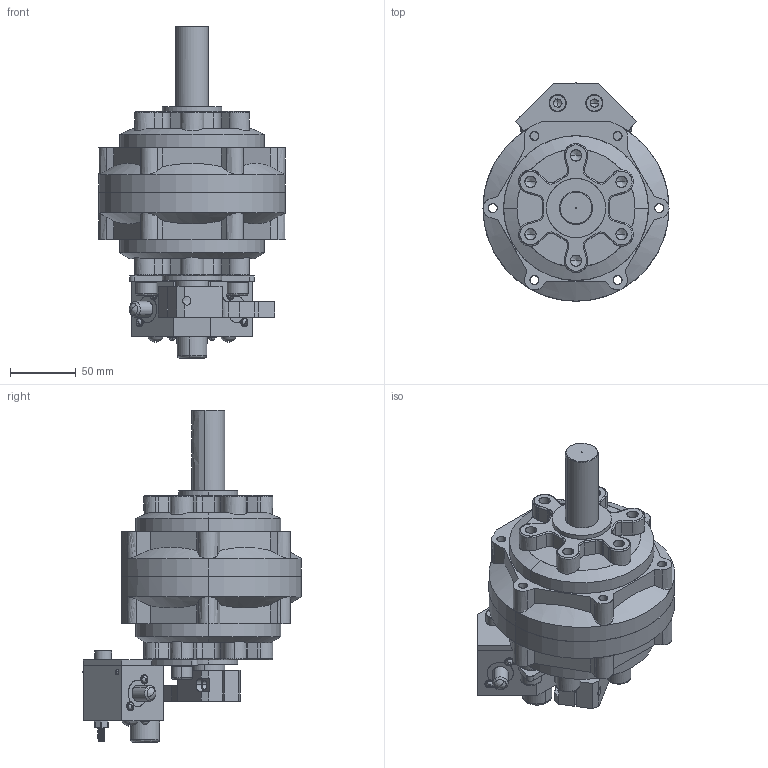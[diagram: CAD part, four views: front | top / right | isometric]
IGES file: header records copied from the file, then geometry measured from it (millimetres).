
Start section: SolidWorks IGES file using analytic representation for surfaces
Global section: file name: C:\Users\Chieh_Lu\Dropbox\¤u§@«Ç\PRN50-150-300-800\PRN300\PRN300\PRN300#-#-#-#-CR.IGS; native system: SolidWorks 2014; preprocessor: SolidWorks 2014; author: Chieh_Lu; date: 160115.004900; units: millimetre
Bounding box: 141.5 x 166.25 x 252.5 mm (x, y, z)
Surface area: 208405.5 mm2 (no closed solid volume)
Topology: 0 solids, 0 shells, 991 faces, 12775 edges, 12729 vertices
Faces by surface type: bspline 521, revolution 470
